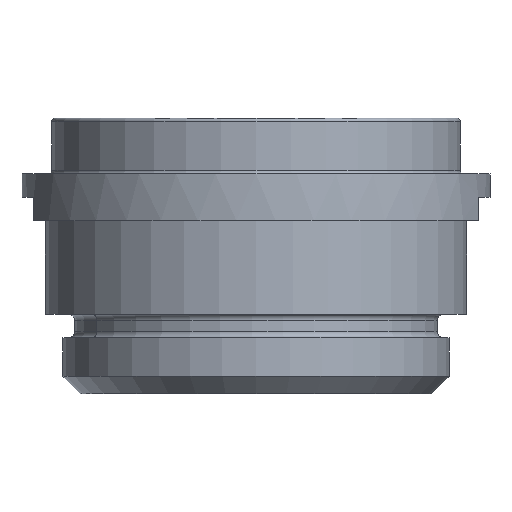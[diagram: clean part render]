
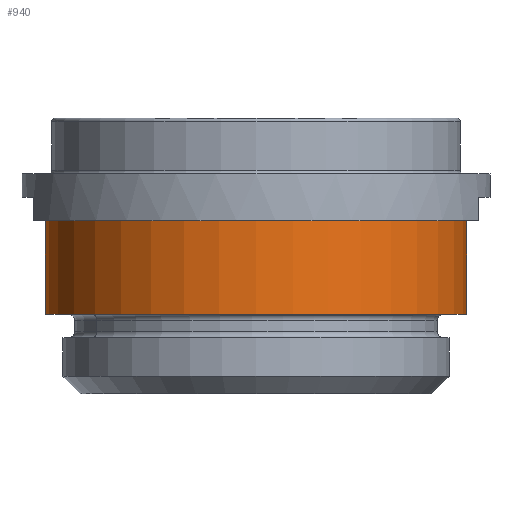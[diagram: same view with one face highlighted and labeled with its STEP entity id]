
A CAD part, front view. The second image highlights one B-rep face of the part: STEP entity #940.
In plain terms, the highlighted cylindrical face has radius 17.991 mm (diameter 35.983 mm), a partial arc.
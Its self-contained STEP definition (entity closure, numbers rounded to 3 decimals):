
#853=CARTESIAN_POINT('Axis2P3D Location',(0.,0.,8.22)) ;
#857=CARTESIAN_POINT('Vertex',(17.992,0.,8.22)) ;
#859=CARTESIAN_POINT('Vertex',(-17.992,0.,8.22)) ;
#910=CARTESIAN_POINT('Axis2P3D Location',(0.,0.,8.82)) ;
#915=CARTESIAN_POINT('Line Origine',(17.992,0.,8.82)) ;
#919=CARTESIAN_POINT('Vertex',(17.992,0.,16.22)) ;
#922=CARTESIAN_POINT('Axis2P3D Location',(0.,0.,16.22)) ;
#926=CARTESIAN_POINT('Vertex',(-17.992,0.,16.22)) ;
#929=CARTESIAN_POINT('Line Origine',(-17.992,0.,8.82)) ;
#854=DIRECTION('Axis2P3D Direction',(0.,0.,-1.)) ;
#911=DIRECTION('Axis2P3D Direction',(0.,0.,-1.)) ;
#912=DIRECTION('Axis2P3D XDirection',(1.,0.,0.)) ;
#916=DIRECTION('Vector Direction',(0.,0.,-1.)) ;
#923=DIRECTION('Axis2P3D Direction',(0.,0.,-1.)) ;
#930=DIRECTION('Vector Direction',(0.,0.,-1.)) ;
#855=AXIS2_PLACEMENT_3D('Circle Axis2P3D',#853,#854,$) ;
#913=AXIS2_PLACEMENT_3D('Cylinder Axis2P3D',#910,#911,#912) ;
#924=AXIS2_PLACEMENT_3D('Circle Axis2P3D',#922,#923,$) ;
#935=ORIENTED_EDGE('',*,*,#921,.T.) ;
#936=ORIENTED_EDGE('',*,*,#928,.T.) ;
#937=ORIENTED_EDGE('',*,*,#933,.F.) ;
#938=ORIENTED_EDGE('',*,*,#861,.F.) ;
#917=VECTOR('Line Direction',#916,1.) ;
#931=VECTOR('Line Direction',#930,1.) ;
#940=ADVANCED_FACE('Corps principal',(#939),#914,.T.) ;
#856=CIRCLE('generated circle',#855,17.992) ;
#925=CIRCLE('generated circle',#924,17.992) ;
#914=CYLINDRICAL_SURFACE('generated cylinder',#913,17.992) ;
#861=EDGE_CURVE('',#858,#860,#856,.T.) ;
#921=EDGE_CURVE('',#858,#920,#918,.F.) ;
#928=EDGE_CURVE('',#920,#927,#925,.T.) ;
#933=EDGE_CURVE('',#860,#927,#932,.F.) ;
#934=EDGE_LOOP('',(#935,#936,#937,#938)) ;
#939=FACE_OUTER_BOUND('',#934,.T.) ;
#918=LINE('Line',#915,#917) ;
#932=LINE('Line',#929,#931) ;
#858=VERTEX_POINT('',#857) ;
#860=VERTEX_POINT('',#859) ;
#920=VERTEX_POINT('',#919) ;
#927=VERTEX_POINT('',#926) ;
